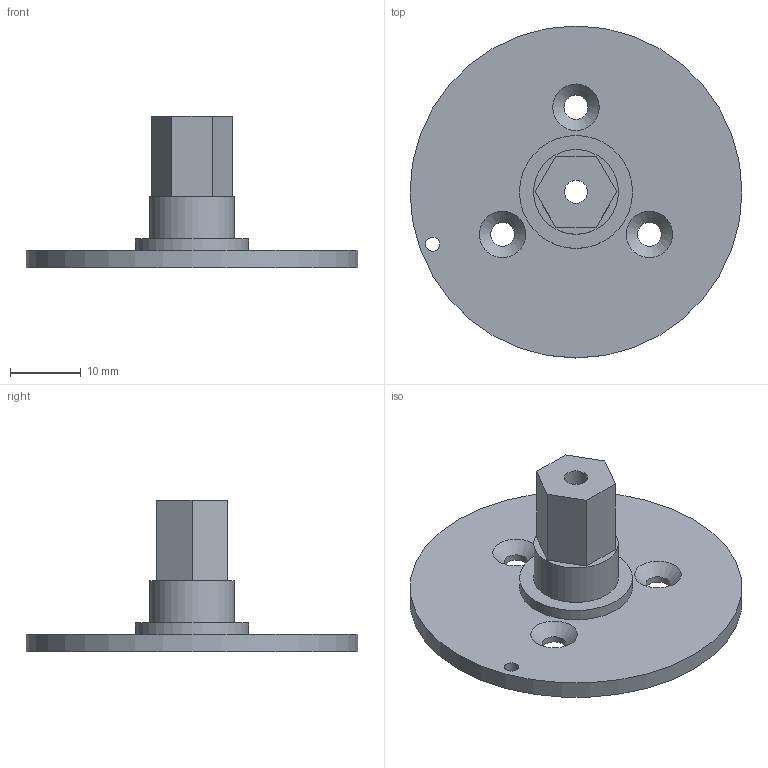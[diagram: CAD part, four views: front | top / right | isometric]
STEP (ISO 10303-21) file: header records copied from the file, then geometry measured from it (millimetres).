
FILE_DESCRIPTION(('Open CASCADE Model'),'2;1');
FILE_NAME('Open CASCADE Shape Model','2026-10-05T13:03:06',('Author'),( 'Open CASCADE'),'Open CASCADE STEP processor 7.9','Open CASCADE 7.9' ,'Unknown');
FILE_SCHEMA(('AUTOMOTIVE_DESIGN { 1 0 10303 214 1 1 1 1 }'));
Length unit declared in the file: millimetre
Products named in the file (1): Open CASCADE STEP translator 7.9 9
Bounding box: 47 x 47 x 21.5 mm (x, y, z)
Volume: 6011.6 mm3; surface area: 4761.4 mm2
Topology: 1 solids, 1 shells, 22 faces, 48 edges, 31 vertices
Faces by surface type: plane 11, cylinder 8, cone 3
Full cylindrical faces by diameter (mm): 2 x1, 3.3 x1, 3.4 x3, 12 x1, 16 x1, 47 x1
Entity records: 1261 total; most frequent: DIRECTION 209, CARTESIAN_POINT 198, LINE 109, VECTOR 109, ORIENTED_EDGE 96, PCURVE 96, DEFINITIONAL_REPRESENTATION 96, EDGE_CURVE 48
